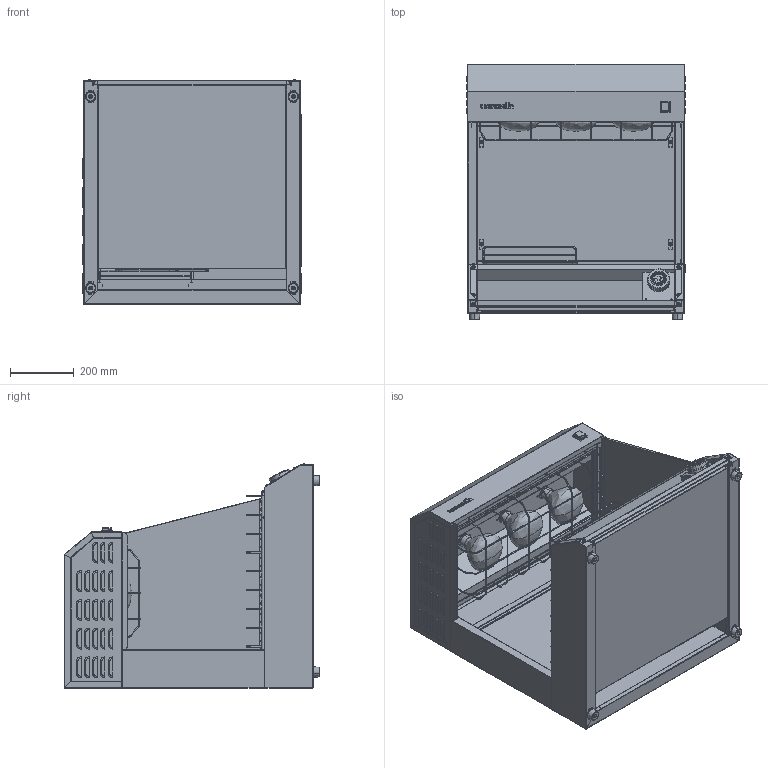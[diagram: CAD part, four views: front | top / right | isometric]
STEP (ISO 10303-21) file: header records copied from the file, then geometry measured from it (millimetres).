
FILE_DESCRIPTION (( 'STEP AP214' ), '1' );
FILE_NAME ('pres-CPDSAPI.STEP', '2024-12-12T08:50:21', ( '' ), ( '' ), 'SwSTEP 2.0', 'SolidWorks 2025', '' );
FILE_SCHEMA (( 'AUTOMOTIVE_DESIGN' ));
Length unit declared in the file: millimetre
Products named in the file (2): corps-poste-salage; pres-CPDSAPI
Assembly tree (1 placements, depth 2):
  pres-CPDSAPI
    corps-poste-salage
Bounding box: 686 x 801 x 702.75 mm (x, y, z)
Volume: 7551412 mm3; surface area: 8018943.7 mm2
Topology: 68 solids, 72 shells, 4864 faces, 12099 edges, 7249 vertices
Faces by surface type: plane 2661, cylinder 1469, torus 386, bspline 232, cone 94, sphere 22
Entity records: 211991 total; most frequent: CARTESIAN_POINT 40997, DIRECTION 24455, ORIENTED_EDGE 24170, EDGE_CURVE 12085, AXIS2_PLACEMENT_3D 8656, VERTEX_POINT 7249, VECTOR 7143, LINE 7143
